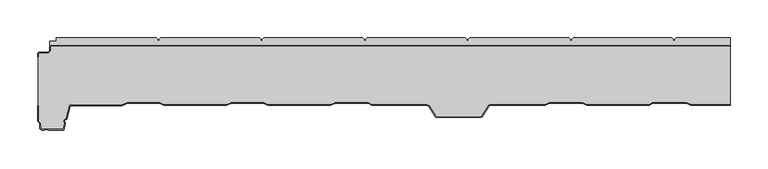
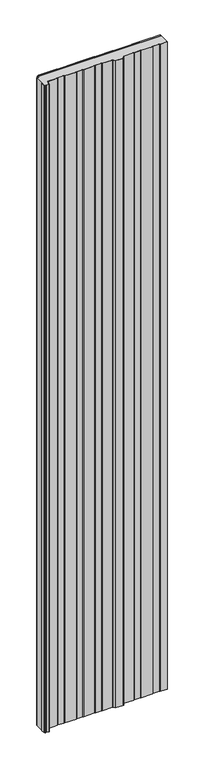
"""IFC4 building model written with IfcOpenShell, lengths in millimetres: plate geometry, Paneles-Sándwich-Madera_PAPUR-AC_Curtain-Panel : PAPUR AC 80/10."""

from ifc_helpers import new_model, si_unit, origin, origin_with_axes, place, context, project, spatial, polyline, outline, extrude, source, transform, mapped, element, save


def plate_7e4b2e3b(model_context):
    return source(origin(), model_context, "Body", "SweptSolid", [
        extrude(outline(polyline([(-304.8923076, 8.0070037), (-302.9037044, 10.0073737), (-172.8159298, 10.0073737), (-170.8198896, 8.0070037), (-170.8198896, 6.0196231), (-168.8151898, 6.0196231), (-168.8151898, 8.0070037), (-166.8234794, 10.0073737), (-36.0114048, 10.0073737), (-34.028354, 8.0070037), (-34.028354, 6.0196231), (-32.0236542, 6.0196231), (-32.0236542, 8.0070037), (-30.027614, 10.0073737), (99.3209865, 10.0073737), (101.3083671, 8.0070037), (101.3083671, 6.0196231), (103.3044073, 6.0196231), (103.3044073, 8.0070037), (105.3047773, 10.0073737), (236.7230247, 10.0073737), (238.7147351, 8.0070037), (238.7147351, 6.0196231), (240.7107753, 6.0196231), (240.7107753, 8.0070037), (242.7111453, 10.0073737), (372.9386962, 10.0073737), (374.9390662, 8.0070037), (374.9390662, 6.0196231), (376.9351064, 6.0196231), (376.9351064, 8.0070037), (378.9311466, 10.0073737), (450.0, 10.0073737), (450.0, 0.0), (-449.601171, 0.0), (-449.601171, 5.5984381), (-441.266524, 5.5984381), (-441.266524, 10.0073737), (-308.8887178, 10.0073737), (-306.8926776, 8.0070037), (-306.8926776, 6.0196231), (-304.8923076, 6.0196231), (-304.8923076, 8.0070037)])), origin_with_axes(), (0.0, 0.0, 1.0), 5000.0),
        extrude(outline(polyline([(-465.6618356, -10.4348305), (-464.1420739, -9.1055803), (-452.1008857, -8.9930054), (-449.9316533, -7.001295), (-449.9922705, -1.1690474), (-448.9531173, 0.0), (450.0, 0.0), (450.0, -0.8), (-448.5938644, -0.8), (-449.1891031, -1.4696435), (-449.1279914, -7.3494661), (-451.7861577, -9.7900979), (-463.8383716, -9.9027759), (-464.8585217, -10.795044), (-464.8185043, -15.1889566), (-465.6185375, -15.1889566), (-465.6618356, -10.4348305)])), origin_with_axes(), (0.0, 0.0, 1.0), 5000.0),
        extrude(outline(polyline([(260.2961713, -79.080732), (255.0700964, -76.8595419), (210.914743, -76.8595419), (205.4418692, -79.080732), (132.9522706, -79.080732), (131.4498282, -80.0159699), (122.1450768, -94.1874223), (121.0669553, -95.2871929), (61.5970809, -95.7721311), (59.7092859, -94.4602001), (51.1406014, -80.2974073), (48.4301433, -79.080732), (-24.2066687, -79.080732), (-28.6057508, -76.8595419), (-72.432039, -76.8595419), (-78.2426376, -79.080732), (-161.7689096, -79.080732), (-167.3283795, -76.8595419), (-209.6738743, -76.8595419), (-215.8568362, -79.080732), (-299.3138314, -79.080732), (-304.2931073, -76.8595419), (-347.2231259, -76.8595419), (-353.6788654, -79.5570106), (-422.9773976, -79.6955644), (-427.4977143, -97.4131272), (-428.6234636, -98.5994938), (-430.0999272, -99.3355607), (-430.4116732, -100.262139), (-429.4850948, -102.4227118), (-429.4850948, -103.6653659), (-431.6372836, -112.0045707), (-452.0433799, -112.0045707), (-454.8231149, -111.0779924), (-457.2997634, -112.0045707), (-460.7029903, -112.0045707), (-462.8635631, -110.4025428), (-462.9285102, -103.2756835), (-465.6476279, -100.6041937), (-465.6, -79.57), (-464.7999979, -79.57), (-464.8468678, -100.2694216), (-462.1315619, -102.9371664), (-462.0672248, -109.9970874), (-460.438754, -111.2045707), (-457.4445144, -111.2045707), (-454.8384953, -110.2295916), (-451.9135578, -111.2045707), (-432.2570317, -111.2045707), (-430.2850948, -103.5637976), (-430.2850948, -102.5870188), (-431.2673442, -100.2966335), (-430.7527365, -98.767105), (-429.1066634, -97.946482), (-428.2213945, -97.0135448), (-423.5992353, -78.896806), (-353.8400488, -78.7573313), (-347.3835418, -76.0595419), (-304.1227627, -76.0595419), (-299.1434867, -78.280732), (-215.9961744, -78.280732), (-209.8132126, -76.0595419), (-167.1744807, -76.0595419), (-161.6150108, -78.280732), (-78.390332, -78.280732), (-72.5797335, -76.0595419), (-28.4152363, -76.0595419), (-24.0161542, -78.280732), (48.6014618, -78.280732), (51.6958915, -79.6697651), (60.3056326, -93.9004185), (61.8448216, -94.9700843), (120.728235, -94.4899283), (121.5191698, -93.6831114), (130.8776723, -79.4297941), (132.7236193, -78.280732), (205.2857129, -78.280732), (210.7585866, -76.0595419), (255.2330509, -76.0595419), (260.4591258, -78.280732), (342.801635, -78.280732), (347.2274638, -76.0595419), (392.6117194, -76.0595419), (398.2231469, -78.280732), (450.0, -78.280732), (450.0, -79.080732), (398.0705727, -79.080732), (392.4591451, -76.8595419), (347.4169495, -76.8595419), (342.9911208, -79.080732), (260.2961713, -79.080732)])), origin_with_axes(), (0.0, 0.0, 1.0), 5000.0),
        extrude(outline(polyline([(398.2211683, -78.2761613), (392.6097408, -76.0549712), (347.2254852, -76.0549712), (342.7996564, -78.2761613), (260.4571472, -78.2761613), (255.2310723, -76.0549712), (210.756608, -76.0549712), (205.2837343, -78.2761613), (132.7216407, -78.2761613), (130.8756937, -79.4252234), (121.5171912, -93.6785406), (120.7262564, -94.4853576), (61.842843, -94.9655136), (60.303654, -93.8958478), (51.6939129, -79.6651944), (48.5994832, -78.2761613), (-24.0181328, -78.2761613), (-28.4172149, -76.0549712), (-72.5817121, -76.0549712), (-78.3923106, -78.2761613), (-161.6169894, -78.2761613), (-167.1764593, -76.0549712), (-209.8151912, -76.0549712), (-215.998153, -78.2761613), (-299.1454653, -78.2761613), (-304.1247413, -76.0549712), (-347.3855204, -76.0549712), (-353.8420274, -78.7527605), (-423.6012139, -78.8922353), (-428.2233731, -97.0089741), (-429.108642, -97.9419113), (-430.7547151, -98.7625342), (-431.2693228, -100.2920628), (-430.2870734, -102.5824481), (-430.2870734, -103.5592269), (-432.2590104, -111.2), (-451.9155364, -111.2), (-454.8404739, -110.2250208), (-457.446493, -111.2), (-460.4407326, -111.2), (-462.0692034, -109.9925166), (-462.1335405, -102.9325956), (-464.8488464, -100.2648508), (-464.8019766, -80.0), (-464.8432618, -10.795044), (-463.8231116, -9.9027759), (-451.7708977, -9.7900979), (-449.1127314, -7.3494661), (-449.1738431, -1.4696435), (-448.5786045, -0.8), (450.0, -0.8), (450.0, -78.2761613), (398.2211683, -78.2761613)])), origin_with_axes(), (0.0, 0.0, 1.0), 5000.0),
    ])


if __name__ == "__main__":
    model = new_model("IFC4")
    model_context = context("Model", 3, world=origin())
    ifc_project = project(units=[si_unit("LENGTHUNIT", "METRE", prefix="MILLI")], contexts=[model_context])
    site = spatial("IfcSite", under=ifc_project)
    building = spatial("IfcBuilding", under=site)
    placement = place(None, origin())
    plate_shape = plate_7e4b2e3b(model_context)
    element("IfcPlate", 1, ObjectType="Paneles-Sándwich-Madera_PAPUR-AC_Curtain-Panel : PAPUR AC 80/10", at=placement, inside=building, context=model_context, shape_type="MappedRepresentation", body=[
        mapped(plate_shape, transform((0.0, 0.0, 0.0), x_axis=(1.0, 0.0, 0.0), y_axis=(0.0, 1.0, 0.0), z_axis=(0.0, 0.0, 1.0))),
    ])
    save(model, "model.ifc")
